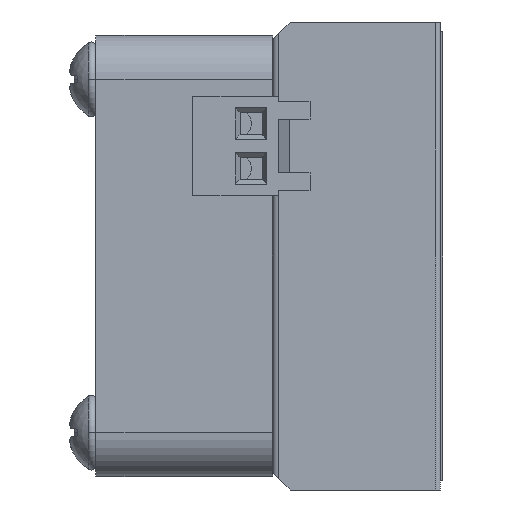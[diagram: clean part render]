
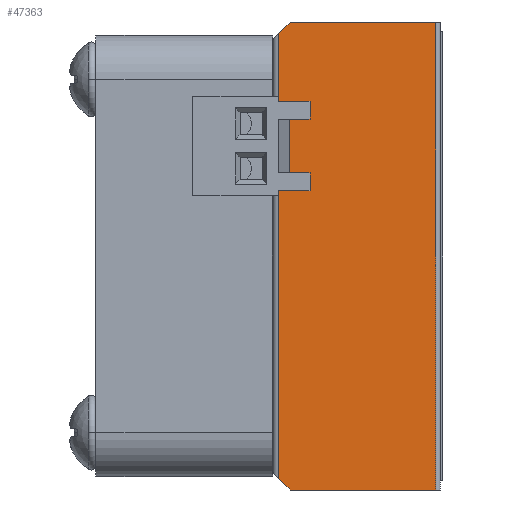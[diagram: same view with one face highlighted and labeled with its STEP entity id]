
A CAD part, left-side view. The second image highlights one B-rep face of the part: STEP entity #47363.
In plain terms, the highlighted planar face has unit normal (-1, 0, 0).
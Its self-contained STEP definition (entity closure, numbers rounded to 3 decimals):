
#684 = EDGE_CURVE ( 'NONE', #35186, #64683, #22256, .T. ) ;
#1240 = VECTOR ( 'NONE', #23947, 1000. ) ;
#1525 = CARTESIAN_POINT ( 'NONE',  ( -13.4, 1.7, 13.25 ) ) ;
#2939 = ORIENTED_EDGE ( 'NONE', *, *, #6875, .T. ) ;
#4728 = AXIS2_PLACEMENT_3D ( 'NONE', #15940, #24840, #40391 ) ;
#5728 = DIRECTION ( 'NONE',  ( 0., -0.707, -0.707 ) ) ;
#6430 = VECTOR ( 'NONE', #5728, 1000. ) ;
#6434 = ORIENTED_EDGE ( 'NONE', *, *, #684, .F. ) ;
#6875 = EDGE_CURVE ( 'NONE', #12377, #57954, #19655, .T. ) ;
#7354 = DIRECTION ( 'NONE',  ( 0., 0.707, -0.707 ) ) ;
#7453 = ORIENTED_EDGE ( 'NONE', *, *, #42913, .T. ) ;
#8924 = VECTOR ( 'NONE', #12397, 1000. ) ;
#11036 = EDGE_CURVE ( 'NONE', #23984, #64683, #57551, .T. ) ;
#11685 = VECTOR ( 'NONE', #7354, 1000. ) ;
#12271 = CARTESIAN_POINT ( 'NONE',  ( -13.4, 8.504, 13.25 ) ) ;
#12377 = VERTEX_POINT ( 'NONE', #51593 ) ;
#12380 = LINE ( 'NONE', #1525, #23278 ) ;
#12397 = DIRECTION ( 'NONE',  ( 0., 0., 1. ) ) ;
#12452 = EDGE_LOOP ( 'NONE', ( #6434, #24171, #2939, #7453, #15223, #17340 ) ) ;
#13703 = DIRECTION ( 'NONE',  ( 0., 0., 1. ) ) ;
#14019 = FACE_OUTER_BOUND ( 'NONE', #12452, .T. ) ;
#15223 = ORIENTED_EDGE ( 'NONE', *, *, #25096, .F. ) ;
#15500 = CARTESIAN_POINT ( 'NONE',  ( -13.4, 8.504, 13.25 ) ) ;
#15940 = CARTESIAN_POINT ( 'NONE',  ( -13.4, 1.7, -13.25 ) ) ;
#17340 = ORIENTED_EDGE ( 'NONE', *, *, #11036, .T. ) ;
#17680 = CARTESIAN_POINT ( 'NONE',  ( -13.4, 0.25, -13.25 ) ) ;
#19655 = LINE ( 'NONE', #34840, #1240 ) ;
#21590 = DIRECTION ( 'NONE',  ( 0., -1., 0. ) ) ;
#22256 = LINE ( 'NONE', #26570, #8924 ) ;
#23278 = VECTOR ( 'NONE', #21590, 1000. ) ;
#23947 = DIRECTION ( 'NONE',  ( 0., -1., 0. ) ) ;
#23984 = VERTEX_POINT ( 'NONE', #15500 ) ;
#24171 = ORIENTED_EDGE ( 'NONE', *, *, #40925, .T. ) ;
#24840 = DIRECTION ( 'NONE',  ( 1., 0., 0. ) ) ;
#25096 = EDGE_CURVE ( 'NONE', #23984, #29978, #12380, .T. ) ;
#26570 = CARTESIAN_POINT ( 'NONE',  ( -13.4, 9.15, -13.25 ) ) ;
#27007 = CARTESIAN_POINT ( 'NONE',  ( -13.4, 9.15, 12.604 ) ) ;
#28044 = CARTESIAN_POINT ( 'NONE',  ( -13.4, 9.15, -12.604 ) ) ;
#29978 = VERTEX_POINT ( 'NONE', #43057 ) ;
#31435 = LINE ( 'NONE', #51245, #6430 ) ;
#34840 = CARTESIAN_POINT ( 'NONE',  ( -13.4, 1.7, -13.25 ) ) ;
#35186 = VERTEX_POINT ( 'NONE', #28044 ) ;
#37952 = VECTOR ( 'NONE', #13703, 1000. ) ;
#40391 = DIRECTION ( 'NONE',  ( 0., 0., -1. ) ) ;
#40925 = EDGE_CURVE ( 'NONE', #35186, #12377, #31435, .T. ) ;
#42913 = EDGE_CURVE ( 'NONE', #57954, #29978, #62996, .T. ) ;
#43057 = CARTESIAN_POINT ( 'NONE',  ( -13.4, 0.25, 13.25 ) ) ;
#47363 = ADVANCED_FACE ( 'NONE', ( #14019 ), #54297, .F. ) ;
#51245 = CARTESIAN_POINT ( 'NONE',  ( -13.4, 8.504, -13.25 ) ) ;
#51593 = CARTESIAN_POINT ( 'NONE',  ( -13.4, 8.504, -13.25 ) ) ;
#54297 = PLANE ( 'NONE',  #4728 ) ;
#54806 = CARTESIAN_POINT ( 'NONE',  ( -13.4, 0.25, -13.25 ) ) ;
#57551 = LINE ( 'NONE', #12271, #11685 ) ;
#57954 = VERTEX_POINT ( 'NONE', #54806 ) ;
#62996 = LINE ( 'NONE', #17680, #37952 ) ;
#64683 = VERTEX_POINT ( 'NONE', #27007 ) ;
